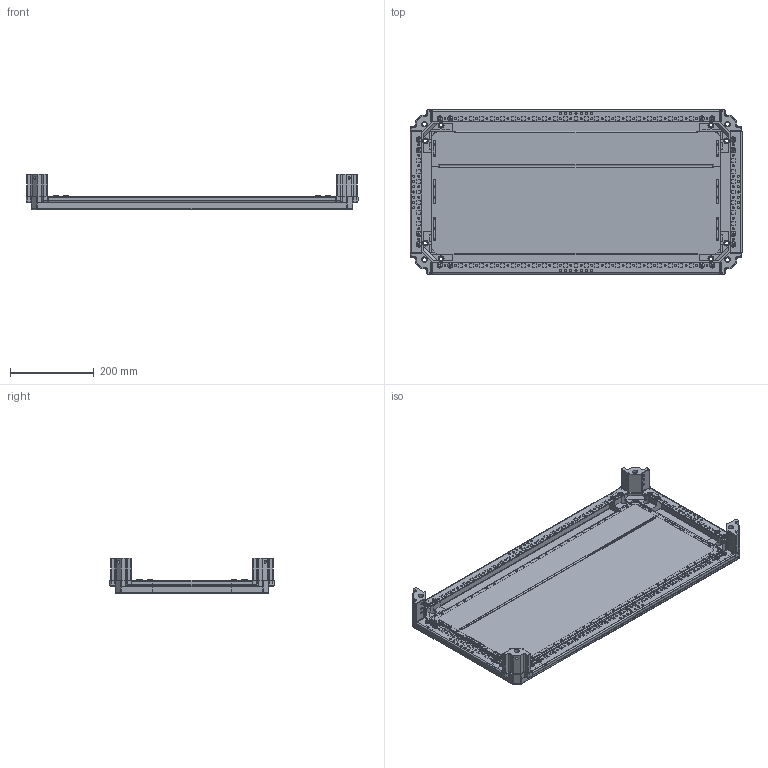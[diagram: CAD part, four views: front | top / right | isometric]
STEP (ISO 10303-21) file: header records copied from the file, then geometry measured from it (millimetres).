
FILE_DESCRIPTION(('STEP AP203'), '1');
FILE_NAME('Êðûøà è îñíîâàíèå Ø400õÃ800 ìì IP55 OptiBox M 419594 ÊÝÀÇ', '', ('UNSPECIFIED'), ('UNSPECIFIED'), 'C3D Converter', 'C3D Toolkit', '');
FILE_SCHEMA(('CONFIG_CONTROL_DESIGN'));
Length unit declared in the file: millimetre
Bounding box: 792 x 392 x 85 mm (x, y, z)
Volume: 1661794.7 mm3; surface area: 1219502.2 mm2
Topology: 26 solids, 26 shells, 2216 faces, 5824 edges, 3680 vertices
Faces by surface type: plane 1084, cylinder 884, cone 208, sphere 24, bspline 16
Full cylindrical faces by diameter (mm): 4.6 x144, 5 x60, 5.6 x16, 6 x40, 7 x4, 7.3 x16, 9 x16, 10.2 x4, 13 x20, 14 x8
Entity records: 81598 total; most frequent: CARTESIAN_POINT 20417, DIRECTION 11178, ORIENTED_EDGE 10736, EDGE_CURVE 5368, AXIS2_PLACEMENT_3D 3893, VERTEX_POINT 3680, LINE 3392, VECTOR 3392
